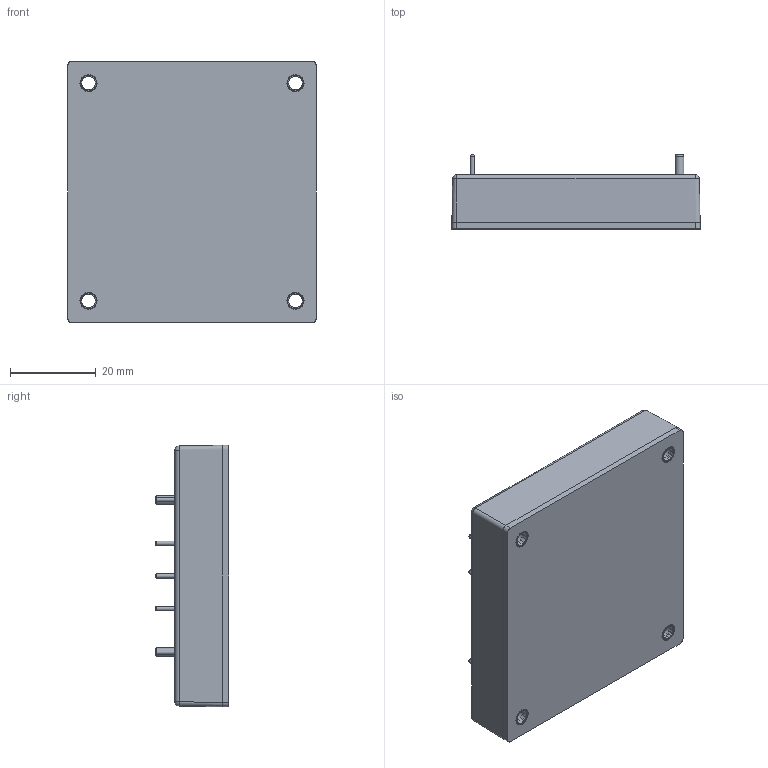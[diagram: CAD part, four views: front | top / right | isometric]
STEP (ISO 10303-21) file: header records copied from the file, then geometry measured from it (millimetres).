
FILE_DESCRIPTION (( 'STEP AP203' ), '1' );
FILE_NAME ('CHB300-300S 2024.11.14.STEP', '2024-11-14T07:32:13', ( '' ), ( '' ), 'SwSTEP 2.0', 'SolidWorks 2020', '' );
FILE_SCHEMA (( 'CONFIG_CONTROL_DESIGN' ));
Length unit declared in the file: millimetre
Products named in the file (1): CHB300-300S 2024.11.14
Bounding box: 57.9 x 17.2 x 61 mm (x, y, z)
Volume: 42285 mm3; surface area: 16400.9 mm2
Topology: 1 solids, 10 shells, 586 faces, 1571 edges, 1029 vertices
Faces by surface type: plane 342, cylinder 135, cone 102, sphere 4, bspline 3
Full cylindrical faces by diameter (mm): 1 x6, 1.2 x8, 2 x2, 2.2 x2, 3.2 x4, 4 x5, 4.3 x4, 4.6 x4
Entity records: 18197 total; most frequent: CARTESIAN_POINT 3771, ORIENTED_EDGE 2974, DIRECTION 2939, EDGE_CURVE 1487, AXIS2_PLACEMENT_3D 1056, VERTEX_POINT 1018, VECTOR 827, LINE 827
